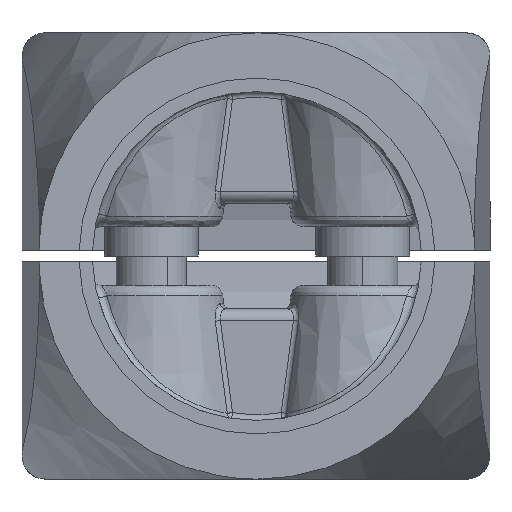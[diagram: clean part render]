
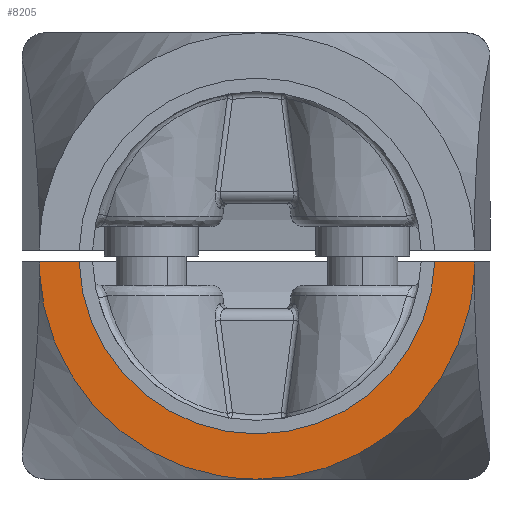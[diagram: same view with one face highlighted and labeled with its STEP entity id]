
A CAD part, front view. The second image highlights one B-rep face of the part: STEP entity #8205.
In plain terms, the highlighted planar face has unit normal (0, -1, 0).
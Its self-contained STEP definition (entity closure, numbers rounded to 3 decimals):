
#117 = VERTEX_POINT ( 'NONE', #6704 ) ;
#367 = VERTEX_POINT ( 'NONE', #6355 ) ;
#578 = CARTESIAN_POINT ( 'NONE',  ( 0., 0., 0. ) ) ;
#615 = CARTESIAN_POINT ( 'NONE',  ( 17.527, 0., 0. ) ) ;
#817 = CARTESIAN_POINT ( 'NONE',  ( -18.5, 0., 0. ) ) ;
#1088 = CARTESIAN_POINT ( 'NONE',  ( 15.142, 0., 18.5 ) ) ;
#1670 = FACE_OUTER_BOUND ( 'NONE', #9341, .T. ) ;
#1715 = CARTESIAN_POINT ( 'NONE',  ( 18.5, 0., 0. ) ) ;
#1906 = CARTESIAN_POINT ( 'NONE',  ( 0., 0., 0. ) ) ;
#2161 = DIRECTION ( 'NONE',  ( 0., -1., 0. ) ) ;
#2371 = AXIS2_PLACEMENT_3D ( 'NONE', #7878, #5724, #2642 ) ;
#2424 = DIRECTION ( 'NONE',  ( -1., 0., 0. ) ) ;
#2502 = CARTESIAN_POINT ( 'NONE',  ( -18.5, 0., 17.5 ) ) ;
#2642 = DIRECTION ( 'NONE',  ( -1., 0., 0. ) ) ;
#2871 = LINE ( 'NONE', #1715, #7854 ) ;
#3319 = LINE ( 'NONE', #817, #12931 ) ;
#3511 = VERTEX_POINT ( 'NONE', #7392 ) ;
#3636 = CARTESIAN_POINT ( 'NONE',  ( -17.527, 0., 0. ) ) ;
#3680 = VERTEX_POINT ( 'NONE', #6586 ) ;
#3931 =( BOUNDED_CURVE ( )  B_SPLINE_CURVE ( 2, ( #9909, #3636, #1906 ),
 .UNSPECIFIED., .F., .T. ) 
 B_SPLINE_CURVE_WITH_KNOTS ( ( 3, 3 ),
 ( 0., 0.028 ),
 .UNSPECIFIED. ) 
 CURVE ( )  GEOMETRIC_REPRESENTATION_ITEM ( )  RATIONAL_B_SPLINE_CURVE ( ( 0.998, 0.726, 1. ) ) 
 REPRESENTATION_ITEM ( '' )  );
#4471 = ORIENTED_EDGE ( 'NONE', *, *, #12256, .T. ) ;
#4555 = VERTEX_POINT ( 'NONE', #11214 ) ;
#4924 = DIRECTION ( 'NONE',  ( 0., 0., 1. ) ) ;
#5268 = ORIENTED_EDGE ( 'NONE', *, *, #12146, .T. ) ;
#5421 = DIRECTION ( 'NONE',  ( -1., 0., 0. ) ) ;
#5700 =( BOUNDED_CURVE ( )  B_SPLINE_CURVE ( 2, ( #578, #615, #5897 ),
 .UNSPECIFIED., .F., .T. ) 
 B_SPLINE_CURVE_WITH_KNOTS ( ( 3, 3 ),
 ( 0., 0.028 ),
 .UNSPECIFIED. ) 
 CURVE ( )  GEOMETRIC_REPRESENTATION_ITEM ( )  RATIONAL_B_SPLINE_CURVE ( ( 1., 0.726, 0.998 ) ) 
 REPRESENTATION_ITEM ( '' )  );
#5724 = DIRECTION ( 'NONE',  ( 0., 1., 0. ) ) ;
#5897 = CARTESIAN_POINT ( 'NONE',  ( 18.5, 0., 17.5 ) ) ;
#6001 = EDGE_CURVE ( 'NONE', #3511, #367, #2871, .T. ) ;
#6207 = ORIENTED_EDGE ( 'NONE', *, *, #6001, .T. ) ;
#6355 = CARTESIAN_POINT ( 'NONE',  ( 18.5, 0., 18.5 ) ) ;
#6521 = EDGE_CURVE ( 'NONE', #4555, #3511, #5700, .T. ) ;
#6586 = CARTESIAN_POINT ( 'NONE',  ( -18.5, 0., 18.5 ) ) ;
#6679 = EDGE_CURVE ( 'NONE', #367, #8228, #11961, .T. ) ;
#6704 = CARTESIAN_POINT ( 'NONE',  ( -15.142, 0., 18.5 ) ) ;
#6764 = EDGE_CURVE ( 'NONE', #10445, #3680, #3319, .T. ) ;
#6905 = ORIENTED_EDGE ( 'NONE', *, *, #6521, .T. ) ;
#7078 = ORIENTED_EDGE ( 'NONE', *, *, #6764, .F. ) ;
#7332 = DIRECTION ( 'NONE',  ( 1., 0., 0. ) ) ;
#7392 = CARTESIAN_POINT ( 'NONE',  ( 18.5, 0., 17.5 ) ) ;
#7644 = CIRCLE ( 'NONE', #2371, 15.15 ) ;
#7811 = VECTOR ( 'NONE', #2424, 1000. ) ;
#7854 = VECTOR ( 'NONE', #10217, 1000. ) ;
#7878 = CARTESIAN_POINT ( 'NONE',  ( 0., 0., 19. ) ) ;
#8205 = ADVANCED_FACE ( 'NONE', ( #1670 ), #11970, .T. ) ;
#8228 = VERTEX_POINT ( 'NONE', #1088 ) ;
#8471 = CARTESIAN_POINT ( 'NONE',  ( 18.5, 0., 0. ) ) ;
#8857 = ORIENTED_EDGE ( 'NONE', *, *, #10279, .T. ) ;
#9004 = VECTOR ( 'NONE', #5421, 1000. ) ;
#9341 = EDGE_LOOP ( 'NONE', ( #10951, #4471, #5268, #7078, #8857, #6905, #6207 ) ) ;
#9909 = CARTESIAN_POINT ( 'NONE',  ( -18.5, 0., 17.5 ) ) ;
#10217 = DIRECTION ( 'NONE',  ( 0., 0., 1. ) ) ;
#10279 = EDGE_CURVE ( 'NONE', #10445, #4555, #3931, .T. ) ;
#10445 = VERTEX_POINT ( 'NONE', #2502 ) ;
#10592 = LINE ( 'NONE', #11866, #7811 ) ;
#10951 = ORIENTED_EDGE ( 'NONE', *, *, #6679, .T. ) ;
#11142 = AXIS2_PLACEMENT_3D ( 'NONE', #8471, #2161, #7332 ) ;
#11214 = CARTESIAN_POINT ( 'NONE',  ( 0., 0., 0. ) ) ;
#11866 = CARTESIAN_POINT ( 'NONE',  ( 19.981, 0., 18.5 ) ) ;
#11961 = LINE ( 'NONE', #12901, #9004 ) ;
#11970 = PLANE ( 'NONE',  #11142 ) ;
#12146 = EDGE_CURVE ( 'NONE', #117, #3680, #10592, .T. ) ;
#12256 = EDGE_CURVE ( 'NONE', #8228, #117, #7644, .T. ) ;
#12901 = CARTESIAN_POINT ( 'NONE',  ( 19.981, 0., 18.5 ) ) ;
#12931 = VECTOR ( 'NONE', #4924, 1000. ) ;
